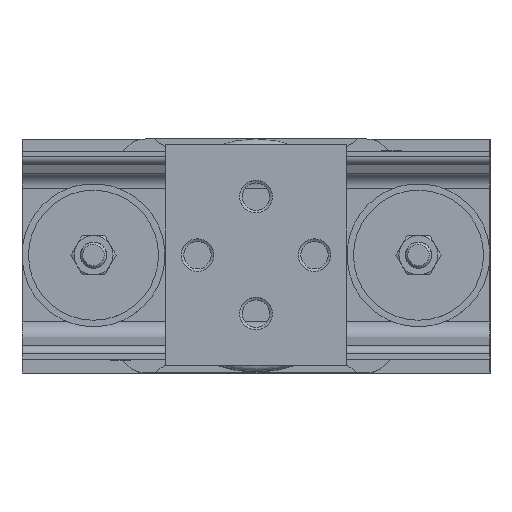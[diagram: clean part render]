
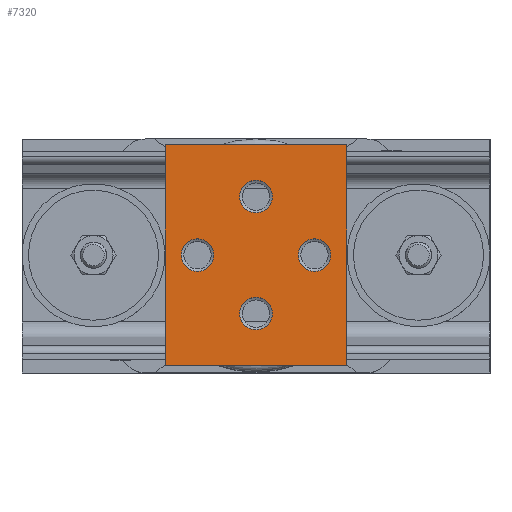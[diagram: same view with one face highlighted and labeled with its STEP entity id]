
A CAD part, top view. The second image highlights one B-rep face of the part: STEP entity #7320.
In plain terms, the highlighted planar face has unit normal (0, 0, 1).
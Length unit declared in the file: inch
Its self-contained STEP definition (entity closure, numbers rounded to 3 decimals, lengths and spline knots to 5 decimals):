
#450=FACE_BOUND('',#1642,.T.);
#451=FACE_BOUND('',#1643,.T.);
#452=FACE_BOUND('',#1644,.T.);
#453=FACE_BOUND('',#1645,.T.);
#661=CIRCLE('',#7902,0.3125);
#663=CIRCLE('',#7905,0.3125);
#665=CIRCLE('',#7908,0.3125);
#667=CIRCLE('',#7911,0.3125);
#1103=FACE_OUTER_BOUND('',#1641,.T.);
#1641=EDGE_LOOP('',(#5334,#5335,#5336,#5337));
#1642=EDGE_LOOP('',(#5338));
#1643=EDGE_LOOP('',(#5339));
#1644=EDGE_LOOP('',(#5340));
#1645=EDGE_LOOP('',(#5341));
#2234=LINE('',#11175,#2690);
#2238=LINE('',#11182,#2694);
#2241=LINE('',#11188,#2697);
#2243=LINE('',#11191,#2699);
#2690=VECTOR('',#9191,4.25);
#2694=VECTOR('',#9197,3.5);
#2697=VECTOR('',#9202,4.25);
#2699=VECTOR('',#9206,3.5);
#3166=VERTEX_POINT('',#11149);
#3168=VERTEX_POINT('',#11154);
#3170=VERTEX_POINT('',#11159);
#3172=VERTEX_POINT('',#11164);
#3176=VERTEX_POINT('',#11172);
#3177=VERTEX_POINT('',#11174);
#3179=VERTEX_POINT('',#11180);
#3181=VERTEX_POINT('',#11186);
#3938=EDGE_CURVE('',#3166,#3166,#661,.T.);
#3940=EDGE_CURVE('',#3168,#3168,#663,.T.);
#3942=EDGE_CURVE('',#3170,#3170,#665,.T.);
#3944=EDGE_CURVE('',#3172,#3172,#667,.T.);
#3948=EDGE_CURVE('',#3177,#3176,#2234,.T.);
#3952=EDGE_CURVE('',#3176,#3179,#2238,.T.);
#3955=EDGE_CURVE('',#3179,#3181,#2241,.T.);
#3957=EDGE_CURVE('',#3181,#3177,#2243,.T.);
#5334=ORIENTED_EDGE('',*,*,#3957,.T.);
#5335=ORIENTED_EDGE('',*,*,#3948,.T.);
#5336=ORIENTED_EDGE('',*,*,#3952,.T.);
#5337=ORIENTED_EDGE('',*,*,#3955,.T.);
#5338=ORIENTED_EDGE('',*,*,#3938,.T.);
#5339=ORIENTED_EDGE('',*,*,#3940,.T.);
#5340=ORIENTED_EDGE('',*,*,#3942,.T.);
#5341=ORIENTED_EDGE('',*,*,#3944,.T.);
#6510=PLANE('',#7918);
#7320=ADVANCED_FACE('',(#1103,#450,#451,#452,#453),#6510,.F.);
#7902=AXIS2_PLACEMENT_3D('',#11150,#9165,#9166);
#7905=AXIS2_PLACEMENT_3D('',#11155,#9171,#9172);
#7908=AXIS2_PLACEMENT_3D('',#11160,#9177,#9178);
#7911=AXIS2_PLACEMENT_3D('',#11165,#9183,#9184);
#7918=AXIS2_PLACEMENT_3D('',#11193,#9209,#9210);
#9165=DIRECTION('center_axis',(0.,0.,
-1.));
#9166=DIRECTION('ref_axis',(1.,0.,0.));
#9171=DIRECTION('center_axis',(0.,0.,
-1.));
#9172=DIRECTION('ref_axis',(1.,0.,0.));
#9177=DIRECTION('center_axis',(0.,0.,
-1.));
#9178=DIRECTION('ref_axis',(1.,0.,0.));
#9183=DIRECTION('center_axis',(0.,0.,
-1.));
#9184=DIRECTION('ref_axis',(1.,0.,0.));
#9191=DIRECTION('',(0.,-1.,0.));
#9197=DIRECTION('',(1.,0.,0.));
#9202=DIRECTION('',(0.,1.,0.));
#9206=DIRECTION('',(-1.,0.,0.));
#9209=DIRECTION('center_axis',(0.,0.,
-1.));
#9210=DIRECTION('ref_axis',(1.,0.,0.));
#11149=CARTESIAN_POINT('',(-0.3125,-1.125,10.25));
#11150=CARTESIAN_POINT('Origin',(0.,-1.125,10.25));
#11154=CARTESIAN_POINT('',(-0.3125,1.125,10.25));
#11155=CARTESIAN_POINT('Origin',(0.,1.125,10.25));
#11159=CARTESIAN_POINT('',(0.8125,0.,10.25));
#11160=CARTESIAN_POINT('Origin',(1.125,0.,10.25));
#11164=CARTESIAN_POINT('',(-1.4375,0.,10.25));
#11165=CARTESIAN_POINT('Origin',(-1.125,0.,10.25));
#11172=CARTESIAN_POINT('',(-1.75,-2.125,10.25));
#11174=CARTESIAN_POINT('',(-1.75,2.125,10.25));
#11175=CARTESIAN_POINT('',(-1.75,2.125,10.25));
#11180=CARTESIAN_POINT('',(1.75,-2.125,10.25));
#11182=CARTESIAN_POINT('',(-1.75,-2.125,10.25));
#11186=CARTESIAN_POINT('',(1.75,2.125,10.25));
#11188=CARTESIAN_POINT('',(1.75,-2.125,10.25));
#11191=CARTESIAN_POINT('',(1.75,2.125,10.25));
#11193=CARTESIAN_POINT('Origin',(0.,0.,
10.25));
